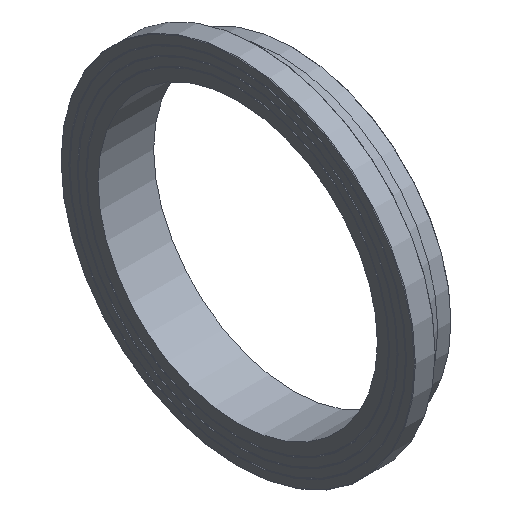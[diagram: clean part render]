
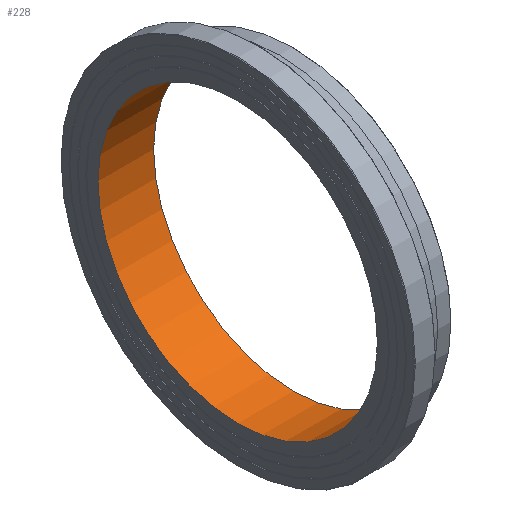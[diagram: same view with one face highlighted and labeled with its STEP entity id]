
A CAD part, isometric view. The second image highlights one B-rep face of the part: STEP entity #228.
In plain terms, the highlighted cylindrical face has radius 396.7 mm (diameter 793.4 mm), a full revolution.
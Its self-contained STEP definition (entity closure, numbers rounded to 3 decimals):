
#33=CYLINDRICAL_SURFACE('',#274,396.7);
#50=ORIENTED_EDGE('',*,*,#79,.F.);
#51=ORIENTED_EDGE('',*,*,#76,.T.);
#76=EDGE_CURVE('',#96,#96,#116,.T.);
#79=EDGE_CURVE('',#99,#99,#119,.T.);
#96=VERTEX_POINT('',#383);
#99=VERTEX_POINT('',#390);
#116=CIRCLE('',#257,396.7);
#119=CIRCLE('',#261,396.7);
#150=EDGE_LOOP('',(#50));
#151=EDGE_LOOP('',(#51));
#190=FACE_BOUND('',#150,.T.);
#191=FACE_BOUND('',#151,.T.);
#228=ADVANCED_FACE('',(#190,#191),#33,.F.);
#257=AXIS2_PLACEMENT_3D('',#382,#303,#304);
#261=AXIS2_PLACEMENT_3D('',#389,#311,#312);
#274=AXIS2_PLACEMENT_3D('',#410,#337,#338);
#303=DIRECTION('',(-1.,0.,0.));
#304=DIRECTION('',(0.,0.,1.));
#311=DIRECTION('',(-1.,0.,0.));
#312=DIRECTION('',(0.,0.,1.));
#337=DIRECTION('',(-1.,0.,0.));
#338=DIRECTION('',(0.,0.,1.));
#382=CARTESIAN_POINT('',(0.,0.,0.));
#383=CARTESIAN_POINT('',(0.,0.,396.7));
#389=CARTESIAN_POINT('',(158.,0.,0.));
#390=CARTESIAN_POINT('',(158.,0.,396.7));
#410=CARTESIAN_POINT('',(60.,0.,0.));
